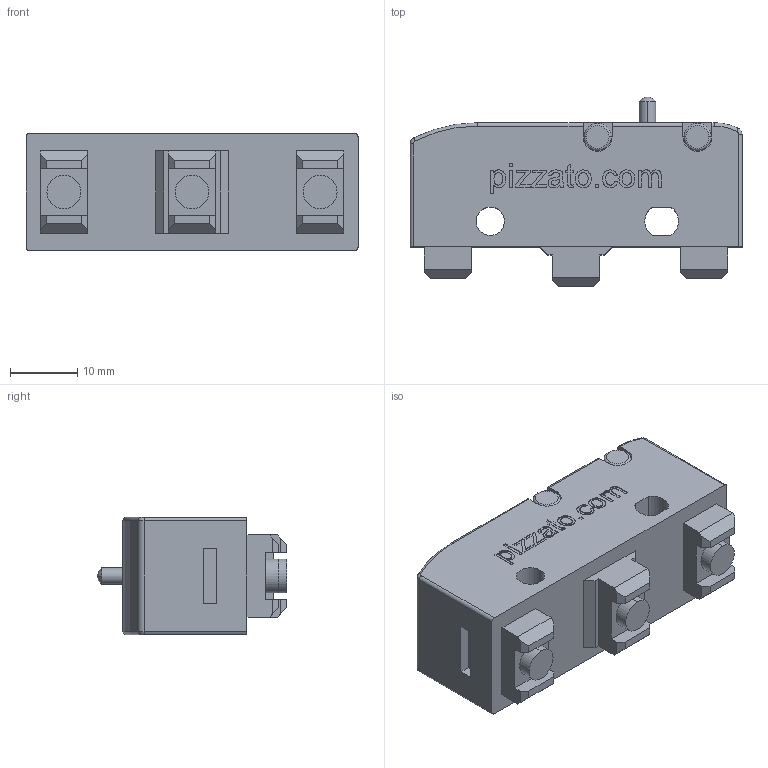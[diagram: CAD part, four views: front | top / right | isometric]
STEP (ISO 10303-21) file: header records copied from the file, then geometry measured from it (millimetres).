
FILE_DESCRIPTION (( 'STEP AP203' ), '1' );
FILE_NAME ('Pizzato_MK_VxxD02.step', '2009-01-29T23:37:59', ( 'Pizzato Elettrica Srl' ), ( '' ), 'SwSTEP 2.0', 'SolidWorks 2008', '' );
FILE_SCHEMA (( 'CONFIG_CONTROL_DESIGN' ));
Length unit declared in the file: millimetre
Products named in the file (4): Pizzato_MK_VxxD02; Pizzato_Custodia_MK_MKV_01-05; Pizzato_Pulsante_MK02; Pizzato_Supporto MK02
Assembly tree (3 placements, depth 2):
  Pizzato_MK_VxxD02
    Pizzato_Supporto MK02
    Pizzato_Custodia_MK_MKV_01-05
    Pizzato_Pulsante_MK02
Bounding box: 49.2 x 28.1 x 17.4 mm (x, y, z)
Volume: 16045.5 mm3; surface area: 5580.1 mm2
Topology: 3 solids, 3 shells, 441 faces, 1154 edges, 763 vertices
Faces by surface type: plane 285, cylinder 69, bspline 69, torus 16, sphere 2
Entity records: 17238 total; most frequent: CARTESIAN_POINT 6257, ORIENTED_EDGE 2308, DIRECTION 1942, EDGE_CURVE 1154, VECTOR 846, LINE 846, VERTEX_POINT 763, AXIS2_PLACEMENT_3D 548
